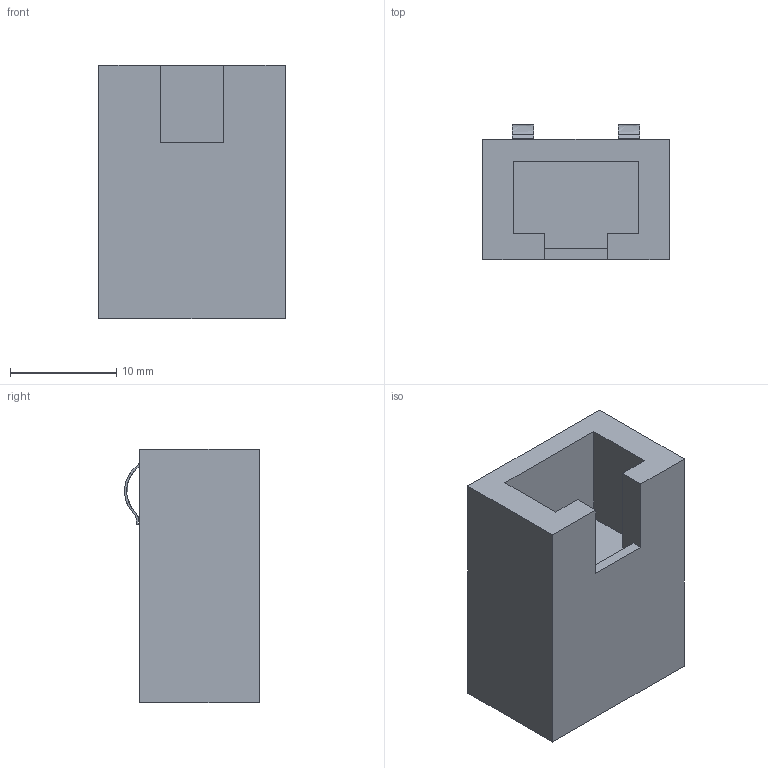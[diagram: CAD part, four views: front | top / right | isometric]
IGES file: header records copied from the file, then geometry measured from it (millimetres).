
Start section:  PTC IGES file: j5d-cn1a.igs
Global section: file name: j5d-cn1a.igs; native system: Creo Parametric by PTC Inc.; preprocessor: 2020184; author: VX25986; organization: Unknown; date: 20210323.200202; units: millimetre
Bounding box: 17.53 x 12.7 x 23.88 mm (x, y, z)
Surface area: 2155.6 mm2 (no closed solid volume)
Topology: 0 solids, 0 shells, 44 faces, 240 edges, 240 vertices
Faces by surface type: bspline 44
